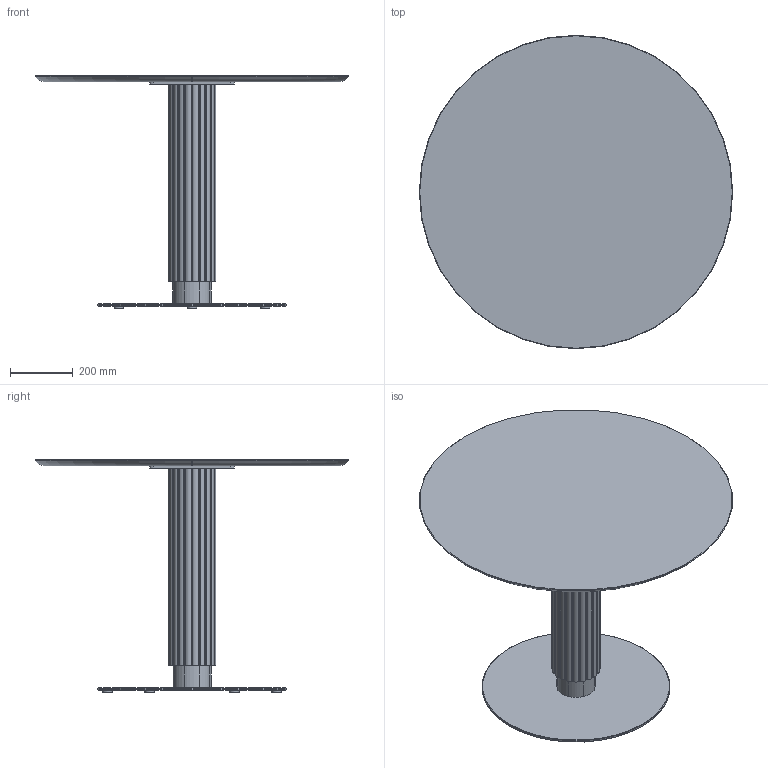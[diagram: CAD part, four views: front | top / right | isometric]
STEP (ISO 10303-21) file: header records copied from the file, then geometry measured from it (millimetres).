
FILE_DESCRIPTION( ('This file contains a STEP AP42 implementation' ,'as created by ZW3D STEP Interface translator.') ,'2;1' );
FILE_NAME( 'God - B_Rond - F1 - M3 - 1000 x 1000 x 750.stp' ,'24 912.113555', (''), ('ZWCAD Software Co.'), 'Version 1.0', 'ZW3D to STEP translator', '' );
FILE_SCHEMA(('AUTOMOTIVE_DESIGN { 1 0 10303 214 1 1 1 1 }'));
Length unit declared in the file: millimetre
Products named in the file (15): 0; PIED BISTROT PARAMETRIQUE_; CROIX ACIER 370 V.02_; CRX-X370-02_; SOCLE ACIER C Ø600 V.02_; SCL-D600-02_; PLA-R30A-01_; PLA-R30A-01; COLONNE ACIER Ø48.5 V.02_; TUB-D048-02_; PLA-R48A-01_; Colonne GODRON H700_; WUERTH 0276063020 Euro-screw 6.3x2 Verzinkt_; PLATEAU BISTROT PARAMETRIQUE_; insert_m6_13_
Assembly tree (25 placements, depth 3):
  0
  PIED BISTROT PARAMETRIQUE_
    CROIX ACIER 370 V.02_
      CRX-X370-02_
    SOCLE ACIER C Ø600 V.02_
      SCL-D600-02_
      PLA-R30A-01_
      PLA-R30A-01  x5
    COLONNE ACIER Ø48.5 V.02_
      TUB-D048-02_
      PLA-R48A-01_  x2
    Colonne GODRON H700_
    WUERTH 0276063020 Euro-screw 6.3x2 Verzinkt_
    PLATEAU BISTROT PARAMETRIQUE_
      insert_m6_13_  x8
Bounding box: 1000 x 1000 x 744 mm (x, y, z)
Volume: 28562877.8 mm3; surface area: 3596126.2 mm2
Topology: 29 solids, 29 shells, 656 faces, 1625 edges, 1042 vertices
Faces by surface type: plane 290, cylinder 197, bspline 121, cone 43, torus 5
Full cylindrical faces by diameter (mm): 4.88 x1, 6 x8, 6.3 x1, 8 x47, 12 x2, 14 x2, 30 x6, 44.5 x3, 48.5 x1, 600 x1
Entity records: 16242 total; most frequent: CARTESIAN_POINT 4039, DIRECTION 2257, ORIENTED_EDGE 2240, EDGE_CURVE 1120, AXIS2_PLACEMENT_3D 808, VERTEX_POINT 728, VECTOR 641, LINE 641
